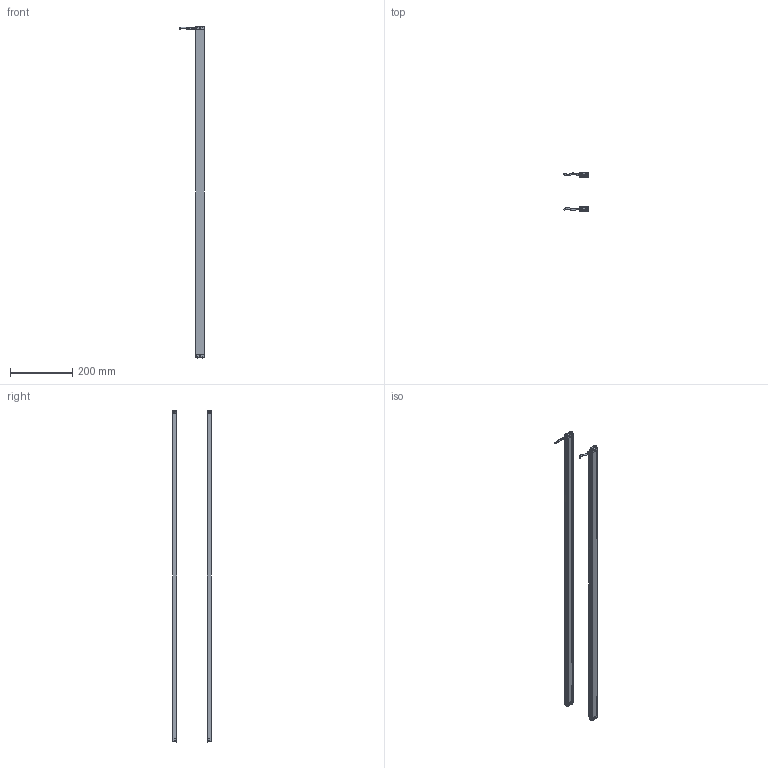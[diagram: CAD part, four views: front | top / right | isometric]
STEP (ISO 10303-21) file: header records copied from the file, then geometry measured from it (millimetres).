
FILE_DESCRIPTION(/* description */ (''),/* implementation_level */ '2;1');
FILE_NAME(/* name */ '5220（13x28w).stp',/* time_stamp */ '2022-03-28T11:54:36+08:00',/* author */ (''),/* organization */ (''),/* preprocessor_version */ 'ST-DEVELOPER v16',/* originating_system */ 'SIEMENS PLM Software NX 10.0',/* authorisation */ '');
FILE_SCHEMA (('AP203_CONFIGURATION_CONTROLLED_3D_DESIGN_OF_MECHANICAL_PARTS_AND_ASSEMBLIES_MIM_LF { 1 0 10303 403 2 1 2}'));
Length unit declared in the file: millimetre
Products named in the file (1): Admi19946F57adx2
Bounding box: 79.6 x 125.02 x 1066 mm (x, y, z)
Volume: 309136.1 mm3; surface area: 411057.9 mm2
Topology: 10 solids, 10 shells, 760 faces, 2150 edges, 1419 vertices
Faces by surface type: plane 356, cylinder 312, torus 52, bspline 40
Entity records: 28451 total; most frequent: CARTESIAN_POINT 8923, ORIENTED_EDGE 4300, DIRECTION 3785, EDGE_CURVE 2150, VERTEX_POINT 1419, AXIS2_PLACEMENT_3D 1285, LINE 1215, VECTOR 1215
